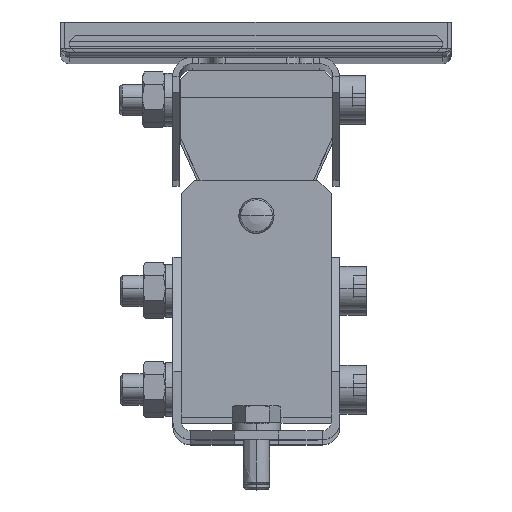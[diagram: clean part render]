
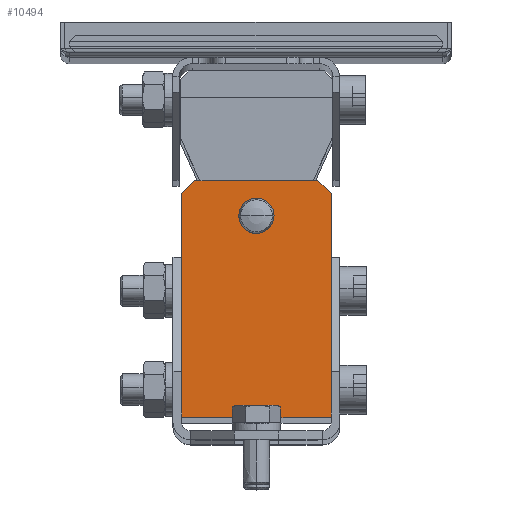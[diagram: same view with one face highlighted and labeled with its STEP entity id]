
A CAD part, top view. The second image highlights one B-rep face of the part: STEP entity #10494.
In plain terms, the highlighted planar face has unit normal (0, 0, 1) as drawn and (0, -1, 0) by its records, which use the part's own axes.
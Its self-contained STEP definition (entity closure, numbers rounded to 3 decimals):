
#9893=DIRECTION('',(-0.707,0.,0.707));
#9894=VECTOR('',#9893,4.243);
#9895=CARTESIAN_POINT('',(-28.099,-67.192,-31.));
#9896=LINE('',#9895,#9894);
#9900=DIRECTION('',(0.,0.,1.));
#9901=VECTOR('',#9900,51.);
#9902=CARTESIAN_POINT('',(-28.099,-67.192,-82.));
#9903=LINE('',#9902,#9901);
#9907=DIRECTION('',(1.,0.,0.));
#9908=VECTOR('',#9907,34.);
#9909=CARTESIAN_POINT('',(-62.099,-67.192,-82.));
#9910=LINE('',#9909,#9908);
#9914=DIRECTION('',(0.,0.,-1.));
#9915=VECTOR('',#9914,51.);
#9916=CARTESIAN_POINT('',(-62.099,-67.192,-31.));
#9917=LINE('',#9916,#9915);
#9921=DIRECTION('',(-0.707,0.,-0.707));
#9922=VECTOR('',#9921,4.243);
#9923=CARTESIAN_POINT('',(-59.099,-67.192,-28.));
#9924=LINE('',#9923,#9922);
#9928=DIRECTION('',(-1.,0.,0.));
#9929=VECTOR('',#9928,28.);
#9930=CARTESIAN_POINT('',(-31.099,-67.192,-28.));
#9931=LINE('',#9930,#9929);
#9935=CARTESIAN_POINT('',(-41.099,-67.192,-36.));
#9936=CARTESIAN_POINT('',(-41.099,-67.192,
-36.331));
#9937=CARTESIAN_POINT('',(-41.179,-67.192,
-36.971));
#9938=CARTESIAN_POINT('',(-41.526,-67.192,
-37.885));
#9939=CARTESIAN_POINT('',(-42.083,-67.192,
-38.685));
#9940=CARTESIAN_POINT('',(-42.799,-67.192,
-39.319));
#9941=CARTESIAN_POINT('',(-43.656,-67.192,
-39.772));
#9942=CARTESIAN_POINT('',(-44.599,-67.192,
-40.008));
#9943=CARTESIAN_POINT('',(-45.568,-67.192,
-40.011));
#9944=CARTESIAN_POINT('',(-46.511,-67.192,
-39.784));
#9945=CARTESIAN_POINT('',(-47.373,-67.192,
-39.337));
#9946=CARTESIAN_POINT('',(-48.101,-67.192,
-38.703));
#9947=CARTESIAN_POINT('',(-48.668,-67.192,
-37.896));
#9948=CARTESIAN_POINT('',(-49.02,-67.192,
-36.973));
#9949=CARTESIAN_POINT('',(-49.099,-67.192,
-36.332));
#9950=CARTESIAN_POINT('',(-49.099,-67.192,-36.));
#9955=CARTESIAN_POINT('',(-49.099,-67.192,-36.));
#9956=CARTESIAN_POINT('',(-49.099,-67.192,
-35.669));
#9957=CARTESIAN_POINT('',(-49.02,-67.192,
-35.029));
#9958=CARTESIAN_POINT('',(-48.673,-67.192,
-34.115));
#9959=CARTESIAN_POINT('',(-48.116,-67.192,
-33.315));
#9960=CARTESIAN_POINT('',(-47.4,-67.192,
-32.681));
#9961=CARTESIAN_POINT('',(-46.543,-67.192,
-32.228));
#9962=CARTESIAN_POINT('',(-45.6,-67.192,
-31.992));
#9963=CARTESIAN_POINT('',(-44.631,-67.192,
-31.989));
#9964=CARTESIAN_POINT('',(-43.688,-67.192,
-32.216));
#9965=CARTESIAN_POINT('',(-42.826,-67.192,
-32.663));
#9966=CARTESIAN_POINT('',(-42.098,-67.192,
-33.297));
#9967=CARTESIAN_POINT('',(-41.531,-67.192,
-34.104));
#9968=CARTESIAN_POINT('',(-41.179,-67.192,
-35.027));
#9969=CARTESIAN_POINT('',(-41.099,-67.192,
-35.668));
#9970=CARTESIAN_POINT('',(-41.099,-67.192,-36.));
#10308=CARTESIAN_POINT('',(-28.099,-67.192,-31.));
#10310=VERTEX_POINT('',#10308);
#10312=CARTESIAN_POINT('',(-28.099,-67.192,-82.));
#10313=VERTEX_POINT('',#10312);
#10318=CARTESIAN_POINT('',(-62.099,-67.192,-82.));
#10319=VERTEX_POINT('',#10318);
#10321=CARTESIAN_POINT('',(-62.099,-67.192,-31.));
#10323=VERTEX_POINT('',#10321);
#10324=CARTESIAN_POINT('',(-59.099,-67.192,-28.));
#10325=VERTEX_POINT('',#10324);
#10329=CARTESIAN_POINT('',(-31.099,-67.192,-28.));
#10331=VERTEX_POINT('',#10329);
#10348=CARTESIAN_POINT('',(-49.099,-67.192,-36.));
#10349=VERTEX_POINT('',#10348);
#10350=CARTESIAN_POINT('',(-41.099,-67.192,-36.));
#10351=VERTEX_POINT('',#10350);
#10470=CARTESIAN_POINT('',(-45.099,-67.192,-55.));
#10471=DIRECTION('',(0.,1.,0.));
#10472=DIRECTION('',(-1.,0.,0.));
#10473=AXIS2_PLACEMENT_3D('',#10470,#10471,#10472);
#10474=PLANE('',#10473);
#10475=ORIENTED_EDGE('',*,*,#10453,.F.);
#10477=ORIENTED_EDGE('',*,*,#10476,.F.);
#10479=ORIENTED_EDGE('',*,*,#10478,.F.);
#10481=ORIENTED_EDGE('',*,*,#10480,.F.);
#10483=ORIENTED_EDGE('',*,*,#10482,.F.);
#10485=ORIENTED_EDGE('',*,*,#10484,.F.);
#10486=EDGE_LOOP('',(#10475,#10477,#10479,#10481,#10483,#10485));
#10487=FACE_OUTER_BOUND('',#10486,.F.);
#10489=ORIENTED_EDGE('',*,*,#10488,.F.);
#10491=ORIENTED_EDGE('',*,*,#10490,.F.);
#10492=EDGE_LOOP('',(#10489,#10491));
#10493=FACE_BOUND('',#10492,.F.);
#10494=ADVANCED_FACE('',(#10487,#10493),#10474,.F.);
#9951=B_SPLINE_CURVE_WITH_KNOTS('',3,(#9935,#9936,#9937,#9938,#9939,#9940,#9941,
#9942,#9943,#9944,#9945,#9946,#9947,#9948,#9949,#9950),.UNSPECIFIED.,.F.,.F.,(4,
1,1,1,1,1,1,1,1,1,1,1,1,4),(0.,0.077,0.154,
0.231,0.308,0.385,0.462,
0.538,0.615,0.692,0.769,
0.846,0.923,1.),.UNSPECIFIED.);
#9971=B_SPLINE_CURVE_WITH_KNOTS('',3,(#9955,#9956,#9957,#9958,#9959,#9960,#9961,
#9962,#9963,#9964,#9965,#9966,#9967,#9968,#9969,#9970),.UNSPECIFIED.,.F.,.F.,(4,
1,1,1,1,1,1,1,1,1,1,1,1,4),(0.,0.077,0.154,
0.231,0.308,0.385,0.462,
0.538,0.615,0.692,0.769,
0.846,0.923,1.),.UNSPECIFIED.);
#10453=EDGE_CURVE('',#10310,#10331,#9896,.T.);
#10476=EDGE_CURVE('',#10313,#10310,#9903,.T.);
#10478=EDGE_CURVE('',#10319,#10313,#9910,.T.);
#10480=EDGE_CURVE('',#10323,#10319,#9917,.T.);
#10482=EDGE_CURVE('',#10325,#10323,#9924,.T.);
#10484=EDGE_CURVE('',#10331,#10325,#9931,.T.);
#10488=EDGE_CURVE('',#10351,#10349,#9951,.T.);
#10490=EDGE_CURVE('',#10349,#10351,#9971,.T.);
